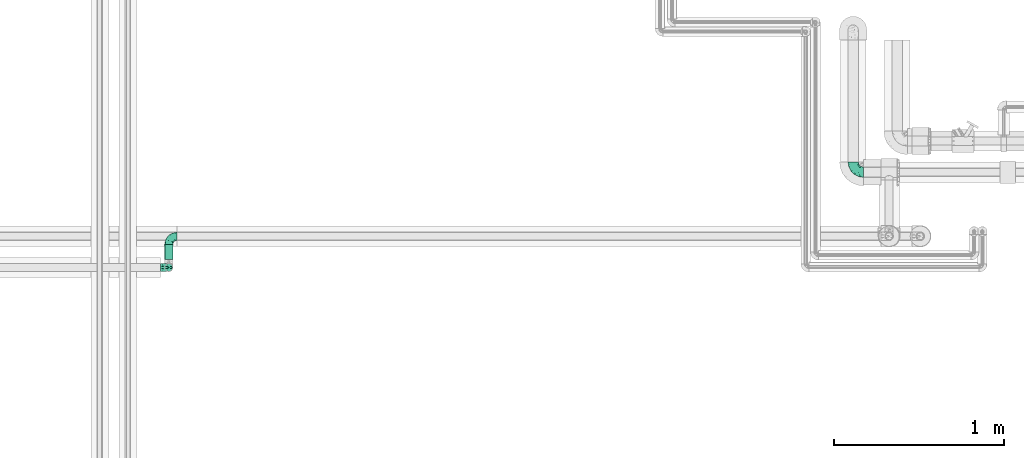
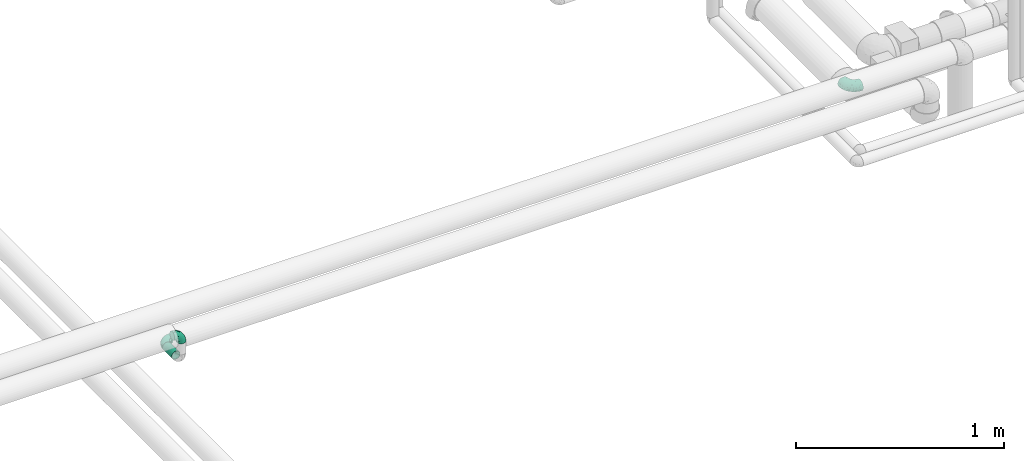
# One storey, part 36 of 83: 3 flow fittings, 1 flow segment.
"""IFC2X3 building model written with IfcOpenShell, lengths in millimetres."""

from ifc_helpers import new_model, entity, si_unit, converted_unit, derived_unit, direction, frame, origin_with_axes, origin_2d_with_axis, place, context, subcontext, project, spatial, hollow_circle, extrude, open_shell, surface_model, source, transform, mapped, type_object, element, save


model = new_model("IFC2X3")

# Units and contexts
model_context = context("Model", 3, precision=0.01, world=frame((0.0, 4.29681676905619e-09, 0.0)), true_north=direction((4.01073788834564e-13, 1.0)))
plan_context = context("Plan", 3, precision=0.01, world=frame((0.0, 4.29681676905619e-09, 0.0)), true_north=direction((4.01073788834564e-13, 1.0)))
body_context = subcontext(model_context, "Body", "Model", "MODEL_VIEW")
ifc_project = project(units=[converted_unit("PLANEANGLEUNIT", "DEGREE", entity("IfcPositiveLengthMeasure", 0.0174532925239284), si_unit("PLANEANGLEUNIT", "RADIAN"), dimensions=[0, 0, 0, 0, 0, 0, 0]), si_unit("AREAUNIT", "SQUARE_METRE"), si_unit("LENGTHUNIT", "METRE", prefix="MILLI"), si_unit("MASSUNIT", "GRAM", prefix="KILO"), si_unit("POWERUNIT", "WATT"), si_unit("PRESSUREUNIT", "PASCAL"), si_unit("FORCEUNIT", "NEWTON", prefix="KILO"), si_unit("ELECTRICVOLTAGEUNIT", "VOLT"), si_unit("ELECTRICCURRENTUNIT", "AMPERE"), si_unit("THERMODYNAMICTEMPERATUREUNIT", "DEGREE_CELSIUS"), si_unit("TIMEUNIT", "SECOND"), si_unit("VOLUMEUNIT", "CUBIC_METRE"), derived_unit("LINEARVELOCITYUNIT", [(si_unit("LENGTHUNIT", "METRE"), 1), (si_unit("TIMEUNIT", "SECOND"), -1)]), derived_unit("VOLUMETRICFLOWRATEUNIT", [(si_unit("VOLUMEUNIT", "CUBIC_METRE"), 1), (si_unit("TIMEUNIT", "SECOND"), -1)]), derived_unit("THERMALTRANSMITTANCEUNIT", [(si_unit("POWERUNIT", "WATT"), 1), (si_unit("THERMODYNAMICTEMPERATUREUNIT", "KELVIN"), -1), (si_unit("AREAUNIT", "SQUARE_METRE"), -1)]), derived_unit("SOUNDPRESSUREUNIT", [(si_unit("PRESSUREUNIT", "PASCAL"), 1)])], contexts=[model_context, plan_context])

# Site, building, storey
site_placement = place(None, frame((0.0, -4.29681676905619e-09, 0.0), z_axis=(0.0, 0.0, 1.0), x_axis=(1.0, 0.0, 0.0)))
site = spatial("IfcSite", under=ifc_project, at=site_placement, Name="ENGM", CompositionType="ELEMENT")
building_placement = place(site_placement, frame((0.0, 4.29681676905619e-09, 0.0), z_axis=(0.0, 0.0, 1.0), x_axis=(1.0, 0.0, 0.0)))
building = spatial("IfcBuilding", under=site, at=building_placement, Name="TI", CompositionType="ELEMENT")
storey_placement = place(building_placement, frame((0.0, 0.0, 204000.0), z_axis=(0.0, 0.0, 1.0), x_axis=(1.0, 0.0, 0.0)))
storey = spatial("IfcBuildingStorey", under=building, at=storey_placement, Name="Nivå D", CompositionType="ELEMENT", Elevation=204000.0)

# Flow fittings
pipe_fitting_type = type_object("IfcPipeFittingType", Name="magi_pipe_fe_elbow_short_001", PredefinedType="BEND")
shared_shape_1 = source(origin_with_axes(), body_context, "Body", "SurfaceModel", [
    surface_model("IfcShellBasedSurfaceModel", [(-60.4, 15.1, -26.15397), (-60.4, 7.81634, -29.17096), (-60.4, 0.0, -30.2), (-60.4, 21.35462, -21.35462), (-60.4, 26.15397, -15.1), (-60.4, -15.1, -26.15397), (-60.4, -21.35462, -21.35462), (-60.4, -7.81634, -29.17096), (-60.4, -26.15397, -15.1), (-60.4, -29.17096, -7.81634), (-60.4, 29.17096, -7.81634), (-60.4, -30.2, 0.0), (-60.4, -29.17096, 7.81634), (-60.4, 29.17096, 7.81634), (-60.4, -21.35462, 21.35462), (-60.4, 26.15397, 15.1), (-60.4, 21.35462, 21.35462), (-60.4, 7.81634, 29.17096), (-60.4, 15.1, 26.15397), (-60.4, -26.15397, 15.1), (-60.4, -7.81634, 29.17096), (-60.4, 0.0, 30.2), (-60.4, -15.1, 26.15397), (-60.4, 30.2, 0.0), (0.0, 60.4, -30.2), (-7.81634, 60.4, -29.17096), (-15.1, 60.4, -26.15397), (-26.15397, 60.4, -15.1), (-29.17096, 60.4, -7.81634), (-21.35462, 60.4, -21.35462), (29.17096, 60.4, -7.81634), (7.81634, 60.4, -29.17096), (21.35462, 60.4, -21.35462), (15.1, 60.4, -26.15397), (26.15397, 60.4, -15.1), (29.17096, 60.4, 7.81634), (30.2, 60.4, 0.0), (-29.17096, 60.4, 7.81634), (21.35462, 60.4, 21.35462), (-21.35462, 60.4, 21.35462), (-26.15397, 60.4, 15.1), (-15.1, 60.4, 26.15397), (-7.81634, 60.4, 29.17096), (26.15397, 60.4, 15.1), (15.1, 60.4, 26.15397), (0.0, 60.4, 30.2), (7.81634, 60.4, 29.17096), (-30.2, 60.4, 0.0), (-40.79975, -26.48639, 9.49143), (-44.2927, -23.46036, 16.95222), (-32.40306, -25.76572, 0.0), (-45.54716, -27.84754, 0.0), (-7.73382, -10.42985, 11.64553), (-2.102, -8.06735, 6.35117), (1.74449, -1.74448, 12.51332), (-46.13593, -4.00068, 29.68351), (-42.2898, 4.62925, 30.14853), (10.31662, 7.37496, 11.34434), (18.44156, 24.57514, 15.02148), (7.07276, 10.95732, 19.27498), (-30.06693, -0.27102, 29.27145), (-44.17726, -11.39441, 27.16031), (-23.4551, -7.13383, 25.24246), (-38.74025, -17.25266, 22.43475), (-27.059, -23.14697, 6.2131), (-19.77486, -19.33133, 0.0), (-10.95732, -7.07276, 19.27498), (-5.39458, 5.39458, 24.69106), (-29.52069, 48.20084, 13.12597), (-25.22813, 47.01796, 19.8404), (-11.27311, 52.093, 28.2877), (-4.13904, 45.17494, 30.12582), (-46.55352, 11.8443, 28.52822), (-7.88305, 20.22717, 29.65331), (-15.00576, 5.54025, 28.20072), (-3.0852, 16.31623, 27.75343), (-52.24998, 18.2886, 24.60768), (-10.49591, 29.69865, 30.14582), (-22.36958, 22.36958, 29.4662), (-17.98262, 13.19715, 30.04443), (-47.74519, 32.16745, 6.63994), (-48.21585, 29.51581, 13.12396), (-37.49729, 37.49729, 11.28901), (-47.20967, 25.1754, 19.81929), (17.25266, 38.74025, 22.43475), (-31.32046, 40.03273, 17.09289), (11.39441, 44.17725, 27.16031), (23.46036, 44.2927, 16.95222), (26.48639, 40.79975, 9.49143), (-7.14666, -12.89694, 0.0), (-14.66463, -16.61192, 7.82462), (4.00068, 46.13593, 29.68351), (-33.18602, 12.93608, 29.65955), (-29.63414, 7.40029, 30.18711), (19.33133, 19.77486, 0.0), (23.14697, 27.059, 6.2131), (16.61192, 14.66463, 7.82462), (27.84754, 45.54716, 0.0), (-32.10611, 20.49149, 27.93323), (-24.57514, -18.44156, 15.02148), (-21.89487, 39.03366, 25.38224), (-18.45005, 50.6405, 24.73297), (-31.78933, 48.71949, 6.47886), (-37.84917, 39.61073, 5.315), (13.91334, 24.32737, 20.46816), (7.13383, 23.4551, 25.24246), (-34.24603, 45.3, 0.0), (-27.95749, 31.89166, 24.81537), (-41.58677, 20.50028, 25.43151), (-0.46157, 0.46157, 17.84239), (-17.23338, 31.26213, 29.03145), (-24.05994, 29.23812, 27.47858), (-13.06094, 40.92174, 28.76128), (-31.83392, 33.72702, 21.39203), (-38.78737, 32.45032, 16.84022), (0.27102, 30.06693, 29.27145), (-24.21469, -13.23741, 21.05734), (8.23548, 2.19333, 6.02161), (25.76572, 32.40306, 0.0), (12.89694, 7.14666, 0.0), (-45.3, 34.24603, 0.0), (2.87514, -2.87514, 0.0), (-44.53432, 26.00869, -20.11577), (-48.18822, 29.5248, -13.12766), (-24.67192, -7.62159, -25.33714), (-26.22398, -0.37671, -28.72374), (-12.13397, -0.50536, -24.74577), (-47.80891, 3.81859, -30.10171), (-44.05719, -27.03585, -9.84546), (-37.94552, -22.39569, -16.35738), (-28.81663, -22.64668, -10.132), (-43.93799, 12.32789, -28.63778), (-33.27, 7.1392, -30.19348), (-26.0087, 44.53432, -20.11577), (-48.89164, 31.68872, -6.60822), (-18.95522, 47.41145, -24.9828), (-12.32789, 43.93799, -28.63778), (-38.42778, 38.42778, -7.21049), (18.04263, 43.69152, -22.80146), (10.42233, 38.24532, -26.85918), (11.90576, 51.00473, -27.48545), (-5.88381, -10.62327, -7.95335), (-5.9694, -7.83116, -13.76182), (3.24899, -2.56331, -7.96861), (-17.62229, 16.32998, -30.18286), (-28.62959, 17.86952, -29.30113), (-47.41145, 18.95522, -24.98279), (-50.84455, -24.04089, -17.54629), (-29.38053, 34.30665, -22.74674), (-27.91099, 27.91099, -26.51666), (-36.91219, 25.51094, -23.99233), (2.63361, -0.55507, -12.94367), (-43.69152, -18.04263, -22.80146), (22.39569, 37.94552, -16.35738), (27.03585, 44.05719, -9.84546), (22.64668, 28.81663, -10.132), (-51.00473, -11.90576, -27.48545), (3.80785, 44.49426, -29.64782), (-19.0921, -14.69952, -16.47487), (-22.5489, -12.31934, -21.1263), (-10.94772, -7.46239, -18.88204), (-32.95885, -13.78948, -23.71249), (-38.24532, -10.42233, -26.85918), (-44.49427, -3.80785, -29.64782), (-22.6301, 37.15314, -25.58239), (-31.68872, 48.89164, -6.60822), (-3.8186, 47.80891, -30.10171), (-10.66133, 10.66133, -28.51691), (0.37671, 26.22398, -28.72374), (1.27136, 14.18619, -25.18541), (-29.5248, 48.18821, -13.12766), (-36.27113, 36.27113, -14.88553), (24.04089, 50.84455, -17.54629), (17.50188, 24.2636, -16.21902), (9.73525, 11.44907, -16.75087), (12.31934, 22.5489, -21.1263), (6.24176, 25.78208, -26.38266), (-7.1392, 33.27, -30.19348), (-36.7166, 19.4356, -27.21946), (-18.00754, 29.38864, -29.15505), (-0.28629, 0.28629, -17.49884), (-13.98848, -16.88492, -5.19509), (15.48569, 15.00432, -11.24742), (16.88492, 13.98848, -5.19509), (3.55782, 9.20508, -21.18402), (-15.00432, -15.48569, -11.24742)], [open_shell([[[0, 1, 2]], [[3, 0, 4]], [[5, 6, 7]], [[6, 2, 7]], [[8, 9, 6]], [[0, 2, 6]], [[4, 0, 6]], [[10, 4, 6]], [[6, 9, 10]], [[11, 12, 9]], [[13, 10, 9]], [[13, 9, 14]], [[15, 13, 16]], [[17, 18, 16]], [[13, 17, 16]], [[17, 13, 14]], [[19, 14, 12]], [[12, 14, 9]], [[20, 21, 22]], [[17, 14, 22]], [[17, 22, 21]], [[13, 23, 10]], [[24, 25, 26]], [[24, 26, 27]], [[27, 28, 24]], [[27, 26, 29]], [[24, 28, 30]], [[31, 32, 33]], [[31, 24, 32]], [[32, 30, 34]], [[24, 30, 32]], [[30, 35, 36]], [[30, 28, 37]], [[38, 30, 37]], [[39, 37, 40]], [[39, 41, 42]], [[39, 42, 37]], [[38, 37, 42]], [[35, 38, 43]], [[30, 38, 35]], [[44, 45, 46]], [[44, 38, 42]], [[45, 44, 42]], [[28, 47, 37]], [[48, 49, 19]], [[50, 48, 51]], [[52, 53, 54]], [[12, 48, 19]], [[12, 51, 48]], [[21, 55, 56]], [[19, 49, 14]], [[57, 58, 59]], [[60, 61, 62]], [[63, 22, 14]], [[63, 61, 22]], [[64, 50, 65]], [[62, 66, 67]], [[40, 68, 69]], [[42, 70, 71]], [[17, 72, 18]], [[73, 74, 75]], [[18, 76, 16]], [[20, 55, 21]], [[77, 78, 79]], [[80, 81, 82]], [[15, 83, 81]], [[84, 38, 44]], [[23, 13, 80]], [[13, 15, 81]], [[68, 85, 69]], [[83, 15, 16]], [[21, 56, 17]], [[44, 86, 84]], [[16, 76, 83]], [[87, 58, 88]], [[40, 37, 68]], [[89, 90, 65]], [[45, 91, 46]], [[65, 90, 64]], [[45, 42, 71]], [[92, 93, 79]], [[88, 35, 43]], [[43, 38, 87]], [[87, 88, 43]], [[94, 95, 96]], [[88, 97, 35]], [[98, 72, 92]], [[49, 99, 63]], [[69, 100, 101]], [[82, 102, 103]], [[104, 105, 59]], [[106, 102, 47]], [[98, 107, 108]], [[102, 82, 68]], [[86, 44, 46]], [[69, 39, 40]], [[109, 54, 57]], [[110, 100, 111]], [[22, 61, 20]], [[101, 41, 39]], [[70, 42, 41]], [[112, 77, 71]], [[84, 86, 105]], [[96, 95, 58]], [[100, 69, 113]], [[72, 17, 56]], [[108, 113, 83]], [[81, 114, 82]], [[112, 110, 77]], [[91, 71, 115]], [[62, 61, 63]], [[55, 61, 60]], [[116, 99, 66]], [[74, 62, 67]], [[91, 86, 46]], [[105, 86, 115]], [[75, 105, 115]], [[109, 67, 66]], [[59, 105, 67]], [[48, 64, 99]], [[99, 49, 48]], [[63, 14, 49]], [[38, 84, 87]], [[58, 87, 84]], [[92, 72, 56]], [[76, 72, 108]], [[102, 68, 37]], [[82, 114, 85]], [[98, 111, 107]], [[112, 70, 101]], [[114, 83, 113]], [[82, 103, 80]], [[92, 79, 78]], [[115, 71, 77]], [[74, 79, 60]], [[77, 79, 73]], [[71, 91, 45]], [[86, 91, 115]], [[61, 55, 20]], [[56, 55, 60]], [[57, 54, 117]], [[104, 59, 58]], [[116, 66, 62]], [[52, 99, 90]], [[12, 11, 51]], [[97, 88, 118]], [[97, 36, 35]], [[53, 90, 89]], [[90, 53, 52]], [[94, 96, 119]], [[88, 95, 118]], [[117, 54, 53]], [[92, 56, 93]], [[98, 92, 78]], [[111, 98, 78]], [[72, 98, 108]], [[110, 111, 78]], [[107, 111, 100]], [[47, 102, 37]], [[102, 106, 103]], [[106, 120, 103]], [[103, 120, 80]], [[23, 80, 120]], [[13, 81, 80]], [[56, 60, 93]], [[60, 79, 93]], [[117, 121, 119]], [[121, 117, 53]], [[53, 89, 121]], [[119, 96, 117]], [[117, 96, 57]], [[77, 110, 78]], [[100, 110, 112]], [[83, 114, 81]], [[85, 114, 113]], [[69, 85, 113]], [[82, 85, 68]], [[109, 52, 54]], [[99, 52, 66]], [[69, 101, 39]], [[112, 101, 100]], [[100, 113, 107]], [[108, 107, 113]], [[62, 74, 60]], [[75, 74, 67]], [[105, 75, 67]], [[73, 75, 115]], [[77, 73, 115]], [[74, 73, 79]], [[99, 64, 90]], [[50, 64, 48]], [[118, 95, 94]], [[58, 95, 88]], [[58, 57, 96]], [[109, 57, 59]], [[72, 76, 18]], [[83, 76, 108]], [[101, 70, 41]], [[71, 70, 112]], [[58, 84, 104]], [[105, 104, 84]], [[67, 109, 59]], [[52, 109, 66]], [[62, 63, 116]], [[99, 116, 63]], [[122, 4, 123]], [[124, 125, 126]], [[2, 1, 127]], [[128, 129, 130]], [[127, 131, 132]], [[27, 29, 133]], [[120, 134, 23]], [[135, 26, 136]], [[123, 134, 137]], [[138, 139, 140]], [[122, 3, 4]], [[141, 142, 143]], [[144, 132, 145]], [[131, 0, 146]], [[128, 8, 147]], [[148, 149, 150]], [[128, 51, 9]], [[142, 151, 143]], [[152, 6, 5]], [[153, 154, 155]], [[156, 152, 5]], [[31, 157, 24]], [[158, 159, 160]], [[147, 8, 6]], [[129, 152, 161]], [[156, 5, 7]], [[162, 163, 125]], [[154, 34, 30]], [[120, 106, 137]], [[149, 148, 164]], [[47, 28, 165]], [[163, 7, 2]], [[4, 10, 123]], [[25, 166, 136]], [[167, 168, 169]], [[170, 133, 171]], [[25, 24, 166]], [[33, 32, 138]], [[157, 31, 140]], [[28, 27, 170]], [[32, 34, 172]], [[26, 135, 29]], [[132, 131, 145]], [[31, 33, 140]], [[173, 174, 175]], [[169, 168, 176]], [[25, 136, 26]], [[175, 138, 173]], [[168, 177, 157]], [[163, 162, 156]], [[153, 172, 154]], [[8, 128, 9]], [[154, 97, 118]], [[131, 178, 145]], [[0, 3, 146]], [[175, 139, 138]], [[155, 118, 94]], [[131, 1, 0]], [[146, 178, 131]], [[170, 137, 165]], [[149, 179, 145]], [[171, 133, 148]], [[160, 180, 142]], [[65, 181, 89]], [[170, 165, 28]], [[137, 171, 123]], [[172, 138, 32]], [[138, 153, 173]], [[168, 157, 139]], [[166, 157, 177]], [[176, 175, 169]], [[168, 167, 144]], [[154, 30, 97]], [[155, 182, 173]], [[162, 124, 161]], [[147, 152, 129]], [[127, 163, 2]], [[132, 144, 125]], [[132, 125, 163]], [[125, 167, 126]], [[129, 158, 130]], [[30, 36, 97]], [[143, 182, 183]], [[169, 126, 167]], [[3, 122, 146]], [[178, 150, 149]], [[136, 179, 164]], [[133, 29, 135]], [[123, 10, 134]], [[122, 123, 171]], [[133, 170, 27]], [[137, 170, 171]], [[184, 175, 174]], [[180, 160, 126]], [[126, 169, 184]], [[126, 159, 124]], [[51, 128, 50]], [[51, 11, 9]], [[131, 127, 1]], [[163, 127, 132]], [[157, 166, 24]], [[136, 166, 177]], [[164, 179, 149]], [[144, 167, 125]], [[179, 144, 145]], [[168, 144, 177]], [[136, 177, 179]], [[144, 179, 177]], [[141, 121, 89]], [[89, 181, 141]], [[154, 118, 155]], [[183, 155, 94]], [[143, 183, 119]], [[119, 183, 94]], [[155, 183, 182]], [[181, 130, 185]], [[50, 128, 130]], [[130, 181, 65]], [[50, 130, 65]], [[141, 181, 185]], [[142, 141, 185]], [[143, 121, 141]], [[158, 160, 142]], [[142, 180, 151]], [[158, 142, 185]], [[126, 160, 159]], [[130, 158, 185]], [[129, 159, 158]], [[23, 134, 10]], [[120, 137, 134]], [[137, 106, 165]], [[47, 165, 106]], [[174, 151, 180]], [[182, 143, 151]], [[150, 146, 122]], [[149, 145, 178]], [[146, 150, 178]], [[122, 171, 148]], [[148, 150, 122]], [[164, 133, 135]], [[133, 164, 148]], [[164, 135, 136]], [[138, 140, 33]], [[157, 140, 139]], [[154, 172, 34]], [[138, 172, 153]], [[163, 156, 7]], [[152, 156, 162]], [[152, 147, 6]], [[128, 147, 129]], [[155, 173, 153]], [[174, 173, 182]], [[151, 174, 182]], [[174, 180, 184]], [[126, 184, 180]], [[175, 184, 169]], [[168, 139, 176]], [[175, 176, 139]], [[161, 124, 159]], [[125, 124, 162]], [[129, 161, 159]], [[162, 161, 152]], [[143, 119, 121]]])]),
])
flow_fitting_placement = place(storey_placement, frame((608357.22198, 697908.0, 5915.24411), z_axis=(0.0, 0.0, 1.0), x_axis=(0.0, -1.0, 0.0)))
element("IfcFlowFitting", 1, at=flow_fitting_placement, inside=storey, type_object=pipe_fitting_type, Name="magi_pipe_fe_elbow_short_001", context=body_context, shape_type="MappedRepresentation", body=[
    mapped(shared_shape_1, transform((0.0, 0.0, 0.0), scale=1.0)),
])
shared_shape_2 = source(origin_with_axes(), body_context, "Body", "SurfaceModel", [
    surface_model("IfcShellBasedSurfaceModel", [(-48.4, 6.26342, -23.37541), (-48.4, 0.0, -24.2), (-48.4, 17.11198, -17.11198), (-48.4, 12.1, -20.95781), (-48.4, 23.37541, -6.26342), (-48.4, 20.95781, -12.1), (-48.4, -12.1, -20.95781), (-48.4, -17.11198, -17.11198), (-48.4, -20.95781, -12.1), (-48.4, -6.26342, -23.37541), (-48.4, -23.37541, -6.26342), (-48.4, -24.2, 0.0), (-48.4, -23.37541, 6.26342), (-48.4, 23.37541, 6.26342), (-48.4, 6.26342, 23.37541), (-48.4, 20.95781, 12.1), (-48.4, 17.11198, 17.11198), (-48.4, 12.1, 20.95781), (-48.4, -12.1, 20.95781), (-48.4, -20.95781, 12.1), (-48.4, -17.11198, 17.11198), (-48.4, -6.26342, 23.37541), (-48.4, 0.0, 24.2), (-48.4, 24.2, 0.0), (-17.11198, 48.4, -17.11198), (0.0, 48.4, -24.2), (-6.26342, 48.4, -23.37541), (-12.1, 48.4, -20.95781), (-20.95781, 48.4, -12.1), (-23.37541, 48.4, -6.26342), (12.1, 48.4, -20.95781), (20.95781, 48.4, -12.1), (17.11198, 48.4, -17.11198), (6.26342, 48.4, -23.37541), (23.37541, 48.4, -6.26342), (23.37541, 48.4, 6.26342), (24.2, 48.4, 0.0), (-23.37541, 48.4, 6.26342), (-6.26342, 48.4, 23.37541), (-17.11198, 48.4, 17.11198), (-20.95781, 48.4, 12.1), (-12.1, 48.4, 20.95781), (12.1, 48.4, 20.95781), (17.11198, 48.4, 17.11198), (20.95781, 48.4, 12.1), (0.0, 48.4, 24.2), (6.26342, 48.4, 23.37541), (-24.2, 48.4, 0.0), (-35.50368, -18.80076, 13.58523), (-31.77913, -13.9618, 18.03279), (-34.50859, -21.43683, 0.0), (-21.39243, -15.41147, 12.21413), (-32.16301, -21.12203, 7.54749), (21.12203, 32.16301, 7.54749), (17.07617, 18.95745, 6.20374), (18.67365, 20.61718, 0.0), (-23.65565, 38.62451, 10.51816), (-20.21592, 37.67665, 15.89859), (-35.56981, -9.15108, 21.77256), (-36.96985, -3.20584, 23.78612), (-33.88786, 3.70953, 24.15875), (-8.84062, -10.8048, 0.0), (-18.95745, -17.07617, 6.20374), (-20.61718, -18.67365, 0.0), (-18.69715, -5.87343, 20.10488), (-24.09336, -0.21717, 23.45593), (-2.08262, -4.09091, 10.90396), (-0.40561, 0.49936, 14.45569), (-8.22634, -5.79523, 14.90978), (-37.83027, 20.17367, 15.88169), (-8.41063, 23.79825, 24.15658), (-17.92529, 17.92529, 23.61199), (-14.40991, 10.5752, 24.07534), (-41.86919, 14.6551, 19.71874), (-9.03342, 41.7434, 22.66763), (-3.31671, 36.19978, 24.14056), (-38.63654, 23.65174, 10.51655), (-38.25939, 25.77657, 5.32075), (-30.0475, 30.0475, 9.04616), (-37.30448, 9.49113, 22.86036), (-6.31688, 16.20853, 23.76192), (-12.02449, 4.43954, 22.59792), (-2.47225, 13.07459, 22.23951), (-4.32281, 4.32281, 19.78555), (13.9618, 31.77913, 18.03279), (15.41147, 21.39243, 12.21413), (18.80076, 35.50367, 13.58523), (-25.72741, 16.42033, 22.38358), (-26.59277, 10.36599, 23.76692), (3.20584, 36.96985, 23.78612), (9.15107, 35.56981, 21.77256), (5.87343, 18.69715, 20.10488), (21.43683, 34.50859, 0.0), (-23.74657, 5.93004, 24.18967), (-22.40302, 25.55556, 19.88516), (-33.3245, 16.42738, 20.3789), (-25.47357, 39.04012, 5.19167), (-30.32947, 31.74105, 4.25904), (11.04589, 19.60124, 16.55181), (-27.44219, 36.3, 0.0), (-10.46605, 32.79159, 23.04712), (-13.80953, 25.05111, 23.26361), (-17.54489, 31.27863, 20.33941), (-19.27982, 23.42922, 22.01925), (-14.78447, 40.57947, 19.81913), (-19.60124, -11.04589, 16.55181), (-25.09785, 32.07921, 13.69695), (-25.5093, 27.02629, 17.14196), (-31.08127, 26.00324, 13.49448), (0.21717, 24.09336, 23.45593), (5.51075, 8.40547, 15.32867), (-11.48597, -10.80284, 11.35932), (1.43689, -3.14326, 6.54995), (7.34882, 4.31024, 8.4514), (7.50574, 2.51208, 3.62663), (12.46453, 10.09451, 5.71609), (12.1504, 12.55391, 10.15678), (-36.3, 27.44219, 0.0), (-6.52237, -9.62364, 7.02633), (2.93595, -2.93595, 0.0), (10.8048, 8.84062, 0.0), (-19.60124, -11.04589, -16.55181), (-31.77913, -13.9618, -18.03279), (-18.69715, -5.87343, -20.10488), (-21.39243, -15.41147, -12.21413), (-37.67665, 20.21591, -15.89859), (-40.57947, 14.78447, -19.81913), (-39.04012, 25.47357, -5.19167), (-32.16301, -21.12203, -7.54749), (-30.0475, 30.0475, -9.04616), (-38.62452, 23.65565, -10.51816), (-18.95745, -17.07617, -6.20374), (-23.42922, 19.27982, -22.01926), (-25.05111, 13.80953, -23.26361), (-31.27863, 17.54489, -20.33941), (-14.6551, 41.86919, -19.71874), (-20.17367, 37.83026, -15.88169), (-41.7434, 9.03342, -22.66763), (-35.50368, -18.80076, -13.58523), (-35.56981, -9.15108, -21.77256), (-16.42033, 25.72741, -22.38358), (-9.49113, 37.30447, -22.86036), (-10.36599, 26.59277, -23.76692), (-36.96985, -3.20584, -23.78612), (-23.79826, 8.41063, -24.15658), (-17.92529, 17.92529, -23.61199), (-10.5752, 14.40991, -24.07534), (-36.19978, 3.31671, -24.14056), (-25.77657, 38.25939, -5.32075), (-23.65174, 38.63654, -10.51655), (-32.79159, 10.46605, -23.04712), (-31.74105, 30.32946, -4.25904), (-5.93004, 23.74657, -24.18967), (-25.55556, 22.40302, -19.88516), (-16.42738, 33.3245, -20.3789), (3.20584, 36.96985, -23.78612), (-3.70953, 33.88785, -24.15875), (18.80076, 35.50367, -13.58523), (13.9618, 31.77913, -18.03279), (7.50574, 2.51208, -3.62663), (12.46453, 10.09451, -5.71609), (9.15108, 35.56981, -21.77256), (-16.20853, 6.31688, -23.76192), (-4.43954, 12.02449, -22.59792), (-13.07459, 2.47225, -22.23951), (-32.07921, 25.09785, -13.69695), (-27.02629, 25.5093, -17.14196), (-26.00324, 31.08127, -13.49448), (-24.09336, -0.21717, -23.45593), (-4.32281, 4.32281, -19.78555), (-8.22634, -5.79524, -14.90978), (5.87343, 18.69715, -20.10488), (11.04589, 19.60124, -16.55181), (15.41147, 21.39243, -12.21413), (-11.48597, -10.80284, -11.35931), (-6.52237, -9.62364, -7.02632), (-2.08262, -4.09091, -10.90396), (7.34882, 4.31024, -8.4514), (-0.40561, 0.49936, -14.45569), (17.07617, 18.95745, -6.20374), (12.1504, 12.55391, -10.15678), (21.12202, 32.16301, -7.54749), (0.21717, 24.09337, -23.45593), (5.51075, 8.40548, -15.32867), (1.43689, -3.14326, -6.54994)], [open_shell([[[0, 1, 2]], [[3, 0, 2]], [[4, 5, 2]], [[6, 2, 1]], [[4, 2, 6]], [[7, 8, 6]], [[1, 9, 6]], [[8, 10, 6]], [[6, 10, 4]], [[11, 12, 10]], [[13, 4, 10]], [[14, 13, 10]], [[15, 13, 16]], [[13, 14, 17]], [[16, 13, 17]], [[10, 18, 14]], [[19, 20, 12]], [[20, 10, 12]], [[21, 22, 18]], [[20, 18, 10]], [[18, 22, 14]], [[23, 4, 13]], [[24, 25, 26]], [[24, 26, 27]], [[24, 28, 29]], [[25, 24, 30]], [[30, 24, 29]], [[30, 31, 32]], [[30, 33, 25]], [[30, 34, 31]], [[29, 34, 30]], [[34, 35, 36]], [[34, 29, 37]], [[34, 37, 38]], [[39, 37, 40]], [[41, 38, 37]], [[41, 37, 39]], [[38, 42, 34]], [[35, 43, 44]], [[35, 34, 43]], [[42, 45, 46]], [[34, 42, 43]], [[38, 45, 42]], [[37, 29, 47]], [[20, 48, 49]], [[12, 11, 50]], [[51, 48, 52]], [[53, 54, 55]], [[48, 20, 19]], [[12, 52, 19]], [[40, 56, 57]], [[49, 18, 20]], [[49, 58, 18]], [[22, 59, 60]], [[61, 62, 63]], [[58, 64, 65]], [[66, 67, 68]], [[15, 16, 69]], [[70, 71, 72]], [[17, 73, 16]], [[21, 59, 22]], [[38, 74, 75]], [[22, 60, 14]], [[15, 69, 76]], [[16, 73, 69]], [[23, 13, 77]], [[13, 15, 76]], [[77, 76, 78]], [[14, 79, 17]], [[80, 81, 82]], [[68, 83, 64]], [[84, 43, 42]], [[85, 86, 84]], [[87, 79, 88]], [[18, 58, 21]], [[45, 89, 46]], [[53, 35, 44]], [[45, 38, 75]], [[84, 90, 91]], [[44, 86, 53]], [[92, 35, 53]], [[86, 44, 43]], [[90, 42, 46]], [[53, 55, 92]], [[88, 93, 72]], [[54, 53, 85]], [[87, 94, 95]], [[78, 96, 97]], [[98, 84, 91]], [[99, 96, 47]], [[79, 14, 60]], [[96, 78, 56]], [[62, 52, 63]], [[57, 39, 40]], [[100, 70, 75]], [[101, 102, 103]], [[12, 50, 52]], [[104, 41, 39]], [[74, 38, 41]], [[57, 102, 104]], [[105, 64, 49]], [[90, 84, 42]], [[40, 37, 56]], [[56, 106, 57]], [[102, 57, 107]], [[95, 107, 69]], [[76, 108, 78]], [[100, 101, 70]], [[89, 75, 109]], [[64, 58, 49]], [[63, 52, 50]], [[59, 58, 65]], [[105, 49, 51]], [[64, 83, 81]], [[89, 90, 46]], [[36, 35, 92]], [[109, 82, 91]], [[109, 91, 90]], [[91, 83, 110]], [[111, 68, 105]], [[66, 68, 111]], [[62, 51, 52]], [[66, 112, 113]], [[114, 115, 113]], [[98, 85, 84]], [[52, 48, 19]], [[49, 48, 51]], [[84, 86, 43]], [[53, 86, 85]], [[88, 79, 60]], [[73, 79, 95]], [[96, 56, 37]], [[78, 108, 106]], [[87, 103, 94]], [[100, 74, 104]], [[108, 69, 107]], [[78, 97, 77]], [[88, 72, 71]], [[109, 75, 70]], [[81, 72, 65]], [[70, 72, 80]], [[75, 89, 45]], [[90, 89, 109]], [[58, 59, 21]], [[60, 59, 65]], [[67, 83, 68]], [[110, 113, 116]], [[88, 60, 93]], [[87, 88, 71]], [[103, 87, 71]], [[79, 87, 95]], [[101, 103, 71]], [[94, 103, 102]], [[47, 96, 37]], [[96, 99, 97]], [[99, 117, 97]], [[97, 117, 77]], [[23, 77, 117]], [[13, 76, 77]], [[60, 65, 93]], [[65, 72, 93]], [[70, 101, 71]], [[102, 101, 100]], [[69, 108, 76]], [[106, 108, 107]], [[57, 106, 107]], [[78, 106, 56]], [[57, 104, 39]], [[100, 104, 102]], [[102, 107, 94]], [[95, 94, 107]], [[64, 81, 65]], [[82, 81, 83]], [[91, 82, 83]], [[80, 82, 109]], [[70, 80, 109]], [[81, 80, 72]], [[79, 73, 17]], [[69, 73, 95]], [[104, 74, 41]], [[75, 74, 100]], [[62, 61, 118]], [[111, 62, 118]], [[113, 115, 116]], [[119, 118, 61]], [[111, 105, 51]], [[113, 112, 114]], [[120, 55, 54]], [[68, 64, 105]], [[91, 110, 98]], [[116, 98, 110]], [[62, 111, 51]], [[66, 111, 118]], [[112, 66, 118]], [[67, 113, 110]], [[118, 119, 112]], [[114, 112, 119]], [[119, 120, 114]], [[115, 120, 54]], [[120, 115, 114]], [[116, 54, 85]], [[54, 116, 115]], [[116, 85, 98]], [[113, 67, 66]], [[83, 67, 110]], [[121, 122, 123]], [[122, 121, 124]], [[5, 125, 2]], [[2, 126, 3]], [[117, 127, 23]], [[50, 10, 128]], [[127, 129, 130]], [[128, 131, 63]], [[132, 133, 134]], [[24, 135, 136]], [[3, 137, 0]], [[128, 8, 138]], [[139, 6, 9]], [[128, 63, 50]], [[5, 4, 130]], [[8, 7, 138]], [[140, 141, 142]], [[143, 9, 1]], [[144, 145, 146]], [[8, 128, 10]], [[124, 138, 122]], [[147, 1, 0]], [[148, 149, 129]], [[125, 134, 126]], [[150, 144, 147]], [[127, 151, 129]], [[142, 152, 146]], [[47, 29, 148]], [[140, 153, 154]], [[149, 29, 28]], [[25, 155, 156]], [[122, 7, 6]], [[24, 27, 135]], [[141, 27, 26]], [[32, 157, 158]], [[25, 33, 155]], [[120, 159, 160]], [[130, 125, 5]], [[24, 136, 28]], [[0, 137, 147]], [[30, 158, 161]], [[139, 122, 6]], [[25, 156, 26]], [[162, 163, 164]], [[31, 157, 32]], [[158, 30, 32]], [[131, 128, 124]], [[36, 92, 34]], [[141, 26, 156]], [[130, 165, 125]], [[136, 149, 28]], [[30, 161, 33]], [[122, 139, 123]], [[134, 125, 166]], [[154, 166, 136]], [[149, 167, 129]], [[150, 133, 144]], [[143, 147, 168]], [[143, 139, 9]], [[11, 10, 50]], [[168, 164, 123]], [[168, 123, 139]], [[123, 169, 170]], [[171, 161, 158]], [[172, 158, 173]], [[171, 169, 163]], [[124, 121, 174]], [[61, 131, 175]], [[176, 175, 174]], [[122, 138, 7]], [[128, 138, 124]], [[158, 157, 173]], [[142, 141, 156]], [[135, 141, 154]], [[127, 130, 4]], [[129, 167, 165]], [[140, 132, 153]], [[150, 137, 126]], [[167, 136, 166]], [[129, 151, 148]], [[142, 146, 145]], [[168, 147, 144]], [[144, 146, 162]], [[147, 143, 1]], [[139, 143, 168]], [[161, 155, 33]], [[172, 171, 158]], [[177, 176, 178]], [[142, 156, 152]], [[140, 142, 145]], [[132, 140, 145]], [[141, 140, 154]], [[133, 132, 145]], [[153, 132, 134]], [[23, 127, 4]], [[127, 117, 151]], [[117, 99, 151]], [[151, 99, 148]], [[47, 148, 99]], [[29, 149, 148]], [[144, 133, 145]], [[134, 133, 150]], [[136, 167, 149]], [[165, 167, 166]], [[125, 165, 166]], [[129, 165, 130]], [[125, 126, 2]], [[150, 126, 134]], [[134, 166, 153]], [[154, 153, 166]], [[164, 163, 169]], [[123, 164, 169]], [[162, 164, 168]], [[144, 162, 168]], [[163, 162, 146]], [[141, 135, 27]], [[136, 135, 154]], [[126, 137, 3]], [[147, 137, 150]], [[174, 131, 124]], [[175, 119, 61]], [[63, 131, 61]], [[179, 160, 180]], [[179, 55, 120]], [[123, 170, 121]], [[174, 121, 170]], [[180, 172, 173]], [[176, 174, 170]], [[131, 174, 175]], [[178, 176, 170]], [[160, 159, 177]], [[120, 119, 159]], [[180, 160, 177]], [[120, 160, 179]], [[179, 180, 173]], [[169, 178, 170]], [[173, 157, 181]], [[34, 92, 181]], [[179, 181, 55]], [[34, 181, 31]], [[55, 181, 92]], [[155, 161, 182]], [[183, 178, 169]], [[179, 173, 181]], [[181, 157, 31]], [[156, 155, 182]], [[119, 184, 159]], [[184, 176, 177]], [[159, 184, 177]], [[177, 178, 183]], [[161, 171, 182]], [[184, 175, 176]], [[172, 180, 183]], [[169, 171, 183]], [[163, 146, 182]], [[156, 182, 152]], [[182, 146, 152]], [[171, 163, 182]], [[183, 171, 172]], [[119, 175, 184]], [[183, 180, 177]]])]),
])
for number, where, z_axis, x_axis, name in (
    (2, (604326.13283, 697531.0, 6072.06187000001), (0.0, 0.0, 1.0), (-1.0, 0.0, 0.0), "magi_pipe_fe_elbow_short_001"),
    (3, (604326.13283, 697347.0, 6233.10000000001), (0.0, -1.0, 0.0), (0.0, 0.0, 1.0), "magi_pipe_fe_elbow_short_001"),
):
    element("IfcFlowFitting", number, at=place(storey_placement, frame(where, z_axis=z_axis, x_axis=x_axis)), inside=storey, type_object=pipe_fitting_type, Name=name, context=body_context, shape_type="MappedRepresentation", body=[
        mapped(shared_shape_2, transform((0.0, 0.0, 0.0), scale=1.0)),
    ])

# Flow segment
pipe_segment_type = type_object("IfcPipeSegmentType", Name="Stålrør normaltykke", PredefinedType="RIGIDSEGMENT")
shared_shape_3 = source(origin_with_axes(), body_context, "Body", "SweptSolid", [
    extrude(hollow_circle(Radius=24.1, WallThickness=2.0, at=origin_2d_with_axis()), frame((0.0, 0.0, 0.0), z_axis=(1.0, 0.0, 0.0), x_axis=(0.0, 1.0, 0.0)), (0.0, 0.0, 1.0), 87.2),
])
flow_segment_placement = place(storey_placement, frame((604326.13283, 697482.6, 6072.06187000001), z_axis=(0.0, 0.00028099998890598, 0.999999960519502), x_axis=(0.0, -0.999999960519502, 0.00028099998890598)))
element("IfcFlowSegment", 4, at=flow_segment_placement, inside=storey, type_object=pipe_segment_type, Name="Stålrør normaltykke", context=body_context, shape_type="MappedRepresentation", body=[
    mapped(shared_shape_3, transform((0.0, 0.0, 0.0), scale=1.0)),
])

save(model, "model.ifc")
